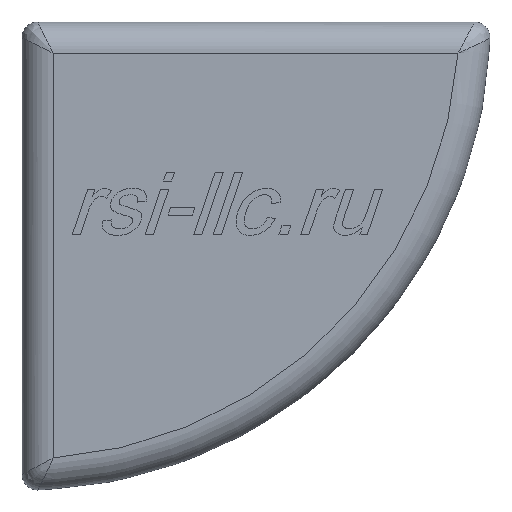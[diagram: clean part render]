
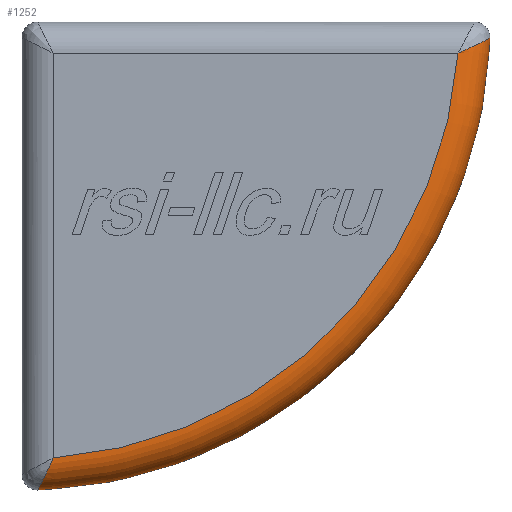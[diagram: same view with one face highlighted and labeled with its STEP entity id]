
A CAD part, front view. The second image highlights one B-rep face of the part: STEP entity #1252.
In plain terms, the highlighted toroidal (fillet/blend) face has major radius 28.018 mm and minor radius 2 mm.
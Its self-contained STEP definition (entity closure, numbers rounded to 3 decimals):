
#15 = VERTEX_POINT ( 'NONE', #397 ) ;
#77 = CARTESIAN_POINT ( 'NONE',  ( 1.3, 0.632, -29.454 ) ) ;
#275 = CARTESIAN_POINT ( 'NONE',  ( 28.578, 0.092, -1.713 ) ) ;
#397 = CARTESIAN_POINT ( 'NONE',  ( 30., 2., -1.034 ) ) ;
#641 = B_SPLINE_CURVE_WITH_KNOTS ( 'NONE', 3,
 ( #862, #5078, #1484, #5673, #2079, #6297, #2692, #6884, #3302, #7478, #3908, #275, #4519, #887, #5109, #1510 ),
 .UNSPECIFIED., .F., .F.,
 ( 4, 2, 2, 2, 2, 2, 2, 4 ),
 ( 0., 0., 0.001, 0.001, 0.002, 0.003, 0.003, 0.003 ),
 .UNSPECIFIED. ) ;
#677 = CARTESIAN_POINT ( 'NONE',  ( 1.181, 0.947, -29.7 ) ) ;
#862 = CARTESIAN_POINT ( 'NONE',  ( 30., 2., -1.034 ) ) ;
#887 = CARTESIAN_POINT ( 'NONE',  ( 28.203, 0.011, -1.885 ) ) ;
#1252 = ADVANCED_FACE ( 'NONE', ( #1473 ), #3260, .T. ) ;
#1308 = CARTESIAN_POINT ( 'NONE',  ( 1.092, 1.316, -29.882 ) ) ;
#1473 = FACE_OUTER_BOUND ( 'NONE', #1885, .T. ) ;
#1484 = CARTESIAN_POINT ( 'NONE',  ( 29.985, 1.721, -1.042 ) ) ;
#1510 = CARTESIAN_POINT ( 'NONE',  ( 27.946, 0., -2. ) ) ;
#1633 = DIRECTION ( 'NONE',  ( 0., -1., 0. ) ) ;
#1681 = CARTESIAN_POINT ( 'NONE',  ( 0., 2., 0. ) ) ;
#1862 = ORIENTED_EDGE ( 'NONE', *, *, #7201, .F. ) ;
#1885 = EDGE_LOOP ( 'NONE', ( #5287, #2575, #2790, #1862 ) ) ;
#1887 = CARTESIAN_POINT ( 'NONE',  ( 1.885, 0., -28.203 ) ) ;
#1903 = CARTESIAN_POINT ( 'NONE',  ( 0., 2., 0. ) ) ;
#1914 = CARTESIAN_POINT ( 'NONE',  ( 1.042, 1.721, -29.985 ) ) ;
#2079 = CARTESIAN_POINT ( 'NONE',  ( 29.882, 1.316, -1.092 ) ) ;
#2273 = DIRECTION ( 'NONE',  ( 0., 0., 1. ) ) ;
#2481 = CARTESIAN_POINT ( 'NONE',  ( 2., 0., -27.946 ) ) ;
#2500 = DIRECTION ( 'NONE',  ( 0., 0., 1. ) ) ;
#2511 = CARTESIAN_POINT ( 'NONE',  ( 1.034, 2., -30. ) ) ;
#2575 = ORIENTED_EDGE ( 'NONE', *, *, #3267, .F. ) ;
#2692 = CARTESIAN_POINT ( 'NONE',  ( 29.7, 0.947, -1.181 ) ) ;
#2728 = VERTEX_POINT ( 'NONE', #4642 ) ;
#2790 = ORIENTED_EDGE ( 'NONE', *, *, #5533, .T. ) ;
#3104 = CARTESIAN_POINT ( 'NONE',  ( 1.768, 0.046, -28.458 ) ) ;
#3245 = AXIS2_PLACEMENT_3D ( 'NONE', #1903, #4301, #2500 ) ;
#3260 = TOROIDAL_SURFACE ( 'NONE', #3245, 28.018, 2. ) ;
#3267 = EDGE_CURVE ( 'NONE', #2728, #7630, #7182, .T. ) ;
#3302 = CARTESIAN_POINT ( 'NONE',  ( 29.454, 0.632, -1.3 ) ) ;
#3711 = CARTESIAN_POINT ( 'NONE',  ( 1.44, 0.363, -29.161 ) ) ;
#3908 = CARTESIAN_POINT ( 'NONE',  ( 28.94, 0.229, -1.545 ) ) ;
#4254 = AXIS2_PLACEMENT_3D ( 'NONE', #1681, #5873, #2273 ) ;
#4301 = DIRECTION ( 'NONE',  ( 0., 1., 0. ) ) ;
#4308 = CARTESIAN_POINT ( 'NONE',  ( 1.257, 0.731, -29.542 ) ) ;
#4519 = CARTESIAN_POINT ( 'NONE',  ( 28.455, 0.057, -1.769 ) ) ;
#4642 = CARTESIAN_POINT ( 'NONE',  ( 2., 0., -27.946 ) ) ;
#4915 = CARTESIAN_POINT ( 'NONE',  ( 1.147, 1.066, -29.769 ) ) ;
#4983 = EDGE_CURVE ( 'NONE', #15, #7630, #641, .T. ) ;
#5078 = CARTESIAN_POINT ( 'NONE',  ( 30., 1.859, -1.034 ) ) ;
#5109 = CARTESIAN_POINT ( 'NONE',  ( 28.074, 0., -1.943 ) ) ;
#5230 = CARTESIAN_POINT ( 'NONE',  ( 0., 0., 0. ) ) ;
#5287 = ORIENTED_EDGE ( 'NONE', *, *, #4983, .T. ) ;
#5342 = CARTESIAN_POINT ( 'NONE',  ( 1.034, 2., -30. ) ) ;
#5438 = B_SPLINE_CURVE_WITH_KNOTS ( 'NONE', 3,
 ( #2481, #1887, #3104, #7272, #3711, #77, #4308, #677, #4915, #1308, #5509, #1914, #6122, #2511 ),
 .UNSPECIFIED., .F., .F.,
 ( 4, 2, 2, 2, 2, 2, 4 ),
 ( 0., 0.001, 0.002, 0.002, 0.003, 0.003, 0.003 ),
 .UNSPECIFIED. ) ;
#5509 = CARTESIAN_POINT ( 'NONE',  ( 1.071, 1.448, -29.926 ) ) ;
#5533 = EDGE_CURVE ( 'NONE', #2728, #7668, #5438, .T. ) ;
#5636 = CIRCLE ( 'NONE', #4254, 30.018 ) ;
#5673 = CARTESIAN_POINT ( 'NONE',  ( 29.926, 1.448, -1.071 ) ) ;
#5827 = AXIS2_PLACEMENT_3D ( 'NONE', #5230, #1633, #5835 ) ;
#5835 = DIRECTION ( 'NONE',  ( 0., 0., 1. ) ) ;
#5873 = DIRECTION ( 'NONE',  ( 0., 1., 0. ) ) ;
#6122 = CARTESIAN_POINT ( 'NONE',  ( 1.034, 1.859, -30. ) ) ;
#6297 = CARTESIAN_POINT ( 'NONE',  ( 29.769, 1.066, -1.147 ) ) ;
#6884 = CARTESIAN_POINT ( 'NONE',  ( 29.542, 0.731, -1.257 ) ) ;
#7182 = CIRCLE ( 'NONE', #5827, 28.018 ) ;
#7201 = EDGE_CURVE ( 'NONE', #15, #7668, #5636, .T. ) ;
#7272 = CARTESIAN_POINT ( 'NONE',  ( 1.545, 0.229, -28.94 ) ) ;
#7478 = CARTESIAN_POINT ( 'NONE',  ( 29.161, 0.363, -1.44 ) ) ;
#7630 = VERTEX_POINT ( 'NONE', #7713 ) ;
#7668 = VERTEX_POINT ( 'NONE', #5342 ) ;
#7713 = CARTESIAN_POINT ( 'NONE',  ( 27.946, 0., -2. ) ) ;
